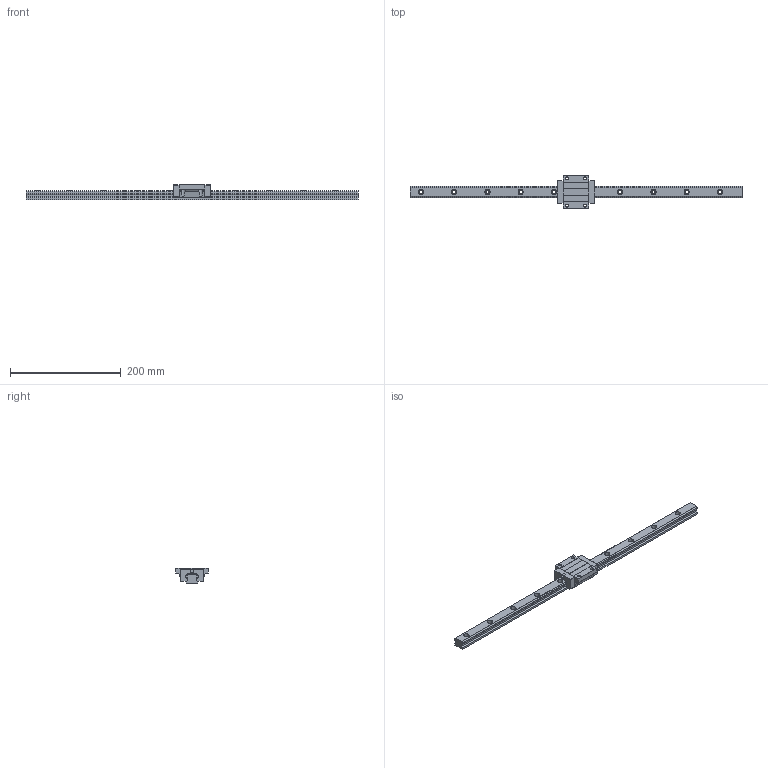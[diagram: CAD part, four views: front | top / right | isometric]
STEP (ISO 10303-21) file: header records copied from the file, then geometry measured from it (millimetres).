
FILE_DESCRIPTION(/* description */ (''),/* implementation_level */ '2;1');
FILE_NAME(/* name */ 'TRS20FN-XN.stp',/* time_stamp */ '2017-10-25T15:52:35+08:00',/* author */ (''),/* organization */ (''),/* preprocessor_version */ 'ST-DEVELOPER v11',/* originating_system */ 'SIEMENS UGS NX 6.0',/* authorisation */ '');
FILE_SCHEMA (('AUTOMOTIVE_DESIGN { 1 0 10303 214 1 1 1 1 }'));
Length unit declared in the file: millimetre
Products named in the file (1): TRS20FN-XN
Bounding box: 600 x 59 x 28 mm (x, y, z)
Volume: 222714.3 mm3; surface area: 63596.8 mm2
Topology: 2 solids, 2 shells, 150 faces, 383 edges, 244 vertices
Faces by surface type: plane 81, cylinder 65, sphere 4
Full cylindrical faces by diameter (mm): 5.5 x4, 6 x11, 9.5 x10
Entity records: 4393 total; most frequent: CARTESIAN_POINT 775, DIRECTION 758, ORIENTED_EDGE 688, EDGE_CURVE 344, AXIS2_PLACEMENT_3D 273, VERTEX_POINT 234, EDGE_LOOP 214, LINE 212
